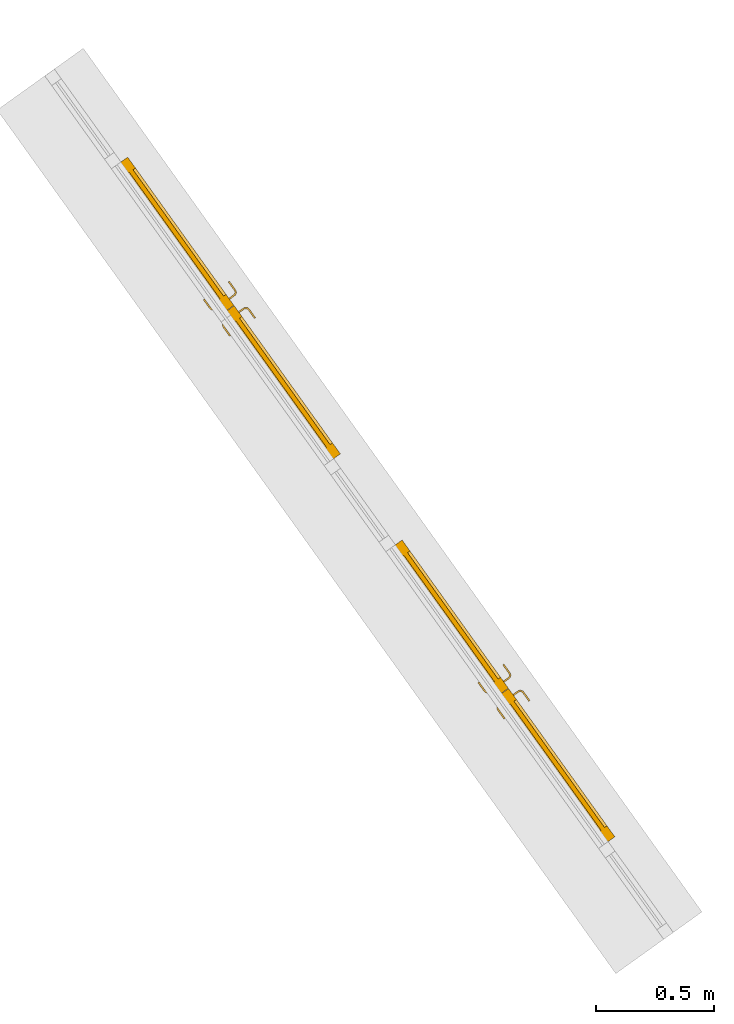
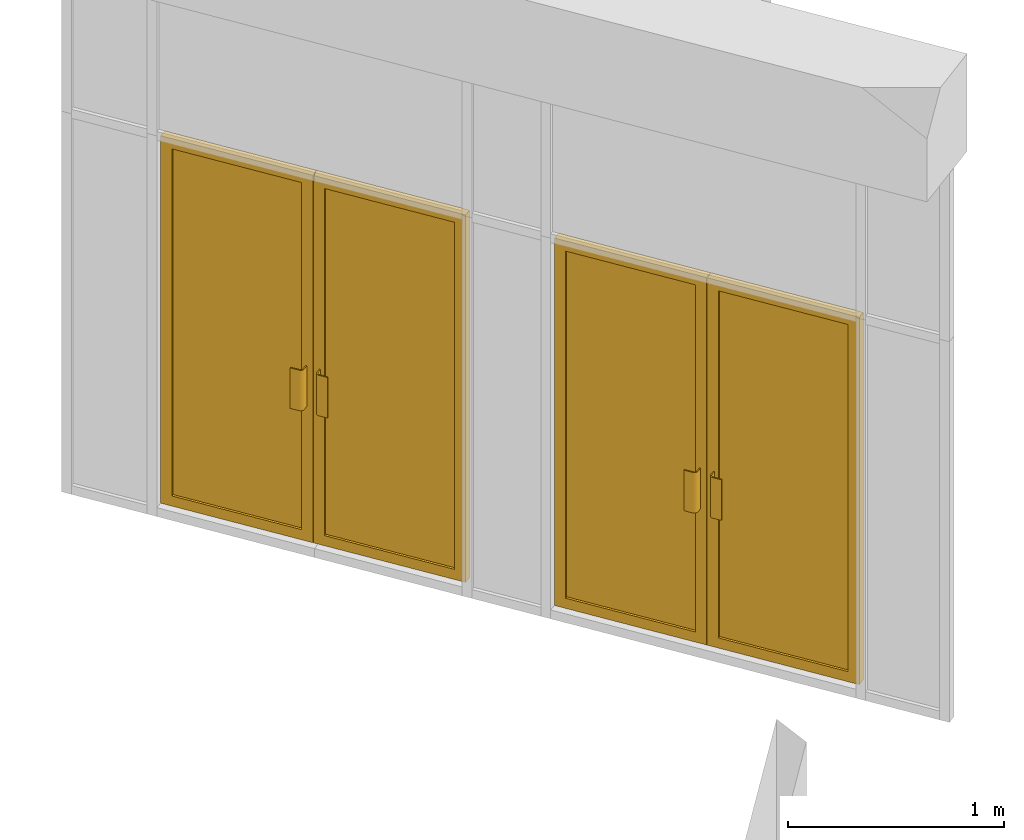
# One storey, part 24 of 24: 2 doors, 1 element without a shape of its own.
"""IFC2X3 building model written with IfcOpenShell, lengths in millimetres."""

from ifc_helpers import new_model, entity, si_unit, converted_unit, derived_unit, direction, frame, frame_2d, origin, place, context, subcontext, project, spatial, polyline, circle_curve, parameter, trimmed, segment, composite_curve, rectangle, outline, extrude, source, transform, mapped, material, material_list, type_object, type_shapes, element, aggregate, save


model = new_model("IFC2X3")

# Units and contexts
model_context = context("Model", 3, precision=0.01, world=origin(), true_north=direction((6.123031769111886e-17, 1.0)))
body_context = subcontext(model_context, "Body", "Model", "MODEL_VIEW")
ifc_project = project(units=[si_unit("LENGTHUNIT", "METRE", prefix="MILLI"), si_unit("AREAUNIT", "SQUARE_METRE"), si_unit("VOLUMEUNIT", "CUBIC_METRE"), converted_unit("PLANEANGLEUNIT", "DEGREE", entity("IfcRatioMeasure", 0.017453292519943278), si_unit("PLANEANGLEUNIT", "RADIAN"), dimensions=[0, 0, 0, 0, 0, 0, 0]), si_unit("MASSUNIT", "GRAM", prefix="KILO"), derived_unit("MASSDENSITYUNIT", [(si_unit("MASSUNIT", "GRAM", prefix="KILO"), 1), (si_unit("LENGTHUNIT", "METRE"), -3)]), derived_unit("MOMENTOFINERTIAUNIT", [(si_unit("LENGTHUNIT", "METRE"), 4)]), si_unit("TIMEUNIT", "SECOND"), si_unit("FREQUENCYUNIT", "HERTZ"), si_unit("THERMODYNAMICTEMPERATUREUNIT", "DEGREE_CELSIUS"), derived_unit("THERMALTRANSMITTANCEUNIT", [(si_unit("MASSUNIT", "GRAM", prefix="KILO"), 1), (si_unit("THERMODYNAMICTEMPERATUREUNIT", "KELVIN"), -1), (si_unit("TIMEUNIT", "SECOND"), -3)]), derived_unit("THERMALCONDUCTANCEUNIT", [(si_unit("MASSUNIT", "GRAM", prefix="KILO"), 1), (si_unit("LENGTHUNIT", "METRE"), 1), (si_unit("THERMODYNAMICTEMPERATUREUNIT", "KELVIN"), -1), (si_unit("TIMEUNIT", "SECOND"), -3)]), derived_unit("VOLUMETRICFLOWRATEUNIT", [(si_unit("LENGTHUNIT", "METRE"), 3), (si_unit("TIMEUNIT", "SECOND"), -1)]), derived_unit("MASSFLOWRATEUNIT", [(si_unit("MASSUNIT", "GRAM", prefix="KILO"), 1), (si_unit("TIMEUNIT", "SECOND"), -1)]), derived_unit("ROTATIONALFREQUENCYUNIT", [(si_unit("TIMEUNIT", "SECOND"), -1)]), si_unit("ELECTRICCURRENTUNIT", "AMPERE"), si_unit("ELECTRICVOLTAGEUNIT", "VOLT"), si_unit("POWERUNIT", "WATT"), converted_unit("FORCEUNIT", "KIP", entity("IfcRatioMeasure", 2.088543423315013e-05), si_unit("FORCEUNIT", "NEWTON"), dimensions=[1, 1, -2, 0, 0, 0, 0]), si_unit("ILLUMINANCEUNIT", "LUX"), si_unit("LUMINOUSFLUXUNIT", "LUMEN"), si_unit("LUMINOUSINTENSITYUNIT", "CANDELA"), derived_unit("USERDEFINED", [(si_unit("MASSUNIT", "GRAM", prefix="KILO"), -1), (si_unit("LENGTHUNIT", "METRE"), -2), (si_unit("TIMEUNIT", "SECOND"), 3), (si_unit("LUMINOUSFLUXUNIT", "LUMEN"), 1)]), derived_unit("USERDEFINED", [(si_unit("MASSUNIT", "GRAM", prefix="KILO"), 1), (si_unit("LENGTHUNIT", "METRE"), 3), (si_unit("TIMEUNIT", "SECOND"), -3), (si_unit("ELECTRICCURRENTUNIT", "AMPERE"), -2)]), derived_unit("USERDEFINED", [(si_unit("LENGTHUNIT", "METRE"), 2), (si_unit("TIMEUNIT", "SECOND"), -2)]), derived_unit("SOUNDPOWERUNIT", [(si_unit("MASSUNIT", "GRAM", prefix="KILO"), 1), (si_unit("LENGTHUNIT", "METRE"), 2), (si_unit("TIMEUNIT", "SECOND"), -3)]), derived_unit("SOUNDPRESSUREUNIT", [(si_unit("MASSUNIT", "GRAM", prefix="KILO"), 1), (si_unit("LENGTHUNIT", "METRE"), -1), (si_unit("TIMEUNIT", "SECOND"), -2)]), derived_unit("LINEARVELOCITYUNIT", [(si_unit("LENGTHUNIT", "METRE"), 1), (si_unit("TIMEUNIT", "SECOND"), -1)]), si_unit("PRESSUREUNIT", "PASCAL"), derived_unit("USERDEFINED", [(si_unit("LENGTHUNIT", "METRE"), -2), (si_unit("MASSUNIT", "GRAM", prefix="KILO"), 1), (si_unit("TIMEUNIT", "SECOND"), -2)]), derived_unit("LINEARFORCEUNIT", [(si_unit("MASSUNIT", "GRAM", prefix="KILO"), 1), (si_unit("LENGTHUNIT", "METRE"), 1), (si_unit("TIMEUNIT", "SECOND"), -2), (si_unit("LENGTHUNIT", "METRE"), -1)]), derived_unit("PLANARFORCEUNIT", [(si_unit("MASSUNIT", "GRAM", prefix="KILO"), 1), (si_unit("LENGTHUNIT", "METRE"), 1), (si_unit("TIMEUNIT", "SECOND"), -2), (si_unit("LENGTHUNIT", "METRE"), -2)]), derived_unit("SPECIFICHEATCAPACITYUNIT", [(si_unit("LENGTHUNIT", "METRE"), 2), (si_unit("TIMEUNIT", "SECOND"), -2), (si_unit("THERMODYNAMICTEMPERATUREUNIT", "KELVIN"), -1)]), derived_unit("VAPORPERMEABILITYUNIT", [(si_unit("TIMEUNIT", "SECOND"), 1), (si_unit("LENGTHUNIT", "METRE"), -1)]), derived_unit("DYNAMICVISCOSITYUNIT", [(si_unit("MASSUNIT", "GRAM", prefix="KILO"), 1), (si_unit("LENGTHUNIT", "METRE"), -1), (si_unit("TIMEUNIT", "SECOND"), -1)]), derived_unit("THERMALEXPANSIONCOEFFICIENTUNIT", [(si_unit("THERMODYNAMICTEMPERATUREUNIT", "KELVIN"), -1)])], contexts=[model_context])

# Site, building, storey
site_placement = place(None, frame((0.0, 0.0, 0.0), z_axis=(0.0, 0.0, 1.0), x_axis=(0.8191520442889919, 0.5735764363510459, 0.0)))
site = spatial("IfcSite", under=ifc_project, at=site_placement, Name="Default", CompositionType="ELEMENT")
building_placement = place(site_placement, origin())
building = spatial("IfcBuilding", under=site, at=building_placement, CompositionType="ELEMENT")
storey_placement = place(building_placement, frame((0.0, 0.0, -1150.0)))
storey = spatial("IfcBuildingStorey", under=building, at=storey_placement, Name="6.EG KH -1.15", CompositionType="ELEMENT", Elevation=-1150.0000000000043)

# Curtain wall, doors
curtain_wall_type = type_object("IfcCurtainWallType", Name="Curtain Wall:Curtain_Wall_CJC_ENTR_KH", PredefinedType="NOTDEFINED")
curtain_wall_placement = place(storey_placement, frame((0.0, 0.0, 1150.0)))
curtain_wall = element("IfcCurtainWall", 1, at=curtain_wall_placement, inside=storey, type_object=curtain_wall_type, Name="Curtain Wall:Curtain_Wall_CJC_ENTR_KH", ObjectType="Curtain Wall:Curtain_Wall_CJC_ENTR_KH")
ifc_material_1 = material(Name="Aluminum")
ifc_material_2 = material(Name="Glass")
ifc_material_list = material_list([ifc_material_1, ifc_material_2])
door_style_1 = type_object("IfcDoorStyle", Name="M_Door-Curtain-Wall-Double-Storefront:M_Door-Curtain-Wall-Double-Storefront", ConstructionType="NOTDEFINED", OperationType="NOTDEFINED", ParameterTakesPrecedence=False, Sizeable=False, material=ifc_material_list)
shared_shape_1 = source(origin(), body_context, "Body", "SweptSolid", [
    extrude(outline(polyline([(-1037.5000000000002, -387.11467502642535), (1037.5000000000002, -387.11467502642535), (1037.5000000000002, 387.1146750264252), (-1037.5000000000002, 387.11467502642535), (-1037.5000000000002, -387.11467502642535)]), holes=[polyline([(-980.3500000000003, 329.9646750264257), (980.3500000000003, 329.9646750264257), (980.3500000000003, -329.9646750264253), (-980.3500000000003, -329.9646750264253), (-980.3500000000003, 329.9646750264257)])]), frame((387.88532497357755, 60.0, 1037.5000000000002), z_axis=(0.0, -1.0, 0.0), x_axis=(0.0, 0.0, -1.0)), (0.0, 0.0, 1.0), 44.45000000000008),
    extrude(outline(polyline([(-387.09157497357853, -1037.5000000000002), (387.09157497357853, -1037.5000000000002), (387.09157497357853, 1037.5000000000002), (-387.09157497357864, 1037.5000000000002), (-387.09157497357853, -1037.5000000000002)]), holes=[polyline([(-329.94157497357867, -980.3500000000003), (-329.9415749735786, 980.3500000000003), (329.94157497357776, 980.3500000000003), (329.9415749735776, -980.3500000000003), (-329.94157497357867, -980.3500000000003)])]), frame((-387.90842502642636, 60.0, 1037.5000000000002), z_axis=(0.0, -1.0, 0.0), x_axis=(-1.0, 0.0, 0.0)), (0.0, 0.0, 1.0), 44.45000000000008),
    extrude(rectangle(XDim=659.9293500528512, YDim=19.049999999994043, at=frame_2d((0.0, -2.6645352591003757e-15), x_axis=(1.0, 0.0))), frame((387.88532497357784, 37.774999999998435, 57.150000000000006)), (0.0, 0.0, 1.0), 1960.7000000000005),
    extrude(rectangle(XDim=659.8831499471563, YDim=19.049999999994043, at=frame_2d((-2.842170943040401e-14, -2.6645352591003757e-15), x_axis=(1.0, 0.0))), frame((-387.90842502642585, 37.774999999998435, 57.150000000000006)), (0.0, 0.0, 1.0), 1960.7000000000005),
    extrude(outline(composite_curve([segment(polyline([(0.8750000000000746, -22.224999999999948), (29.124999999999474, -22.224999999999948)]), True, "CONTINUOUS"), segment(polyline([(29.124999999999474, -22.224999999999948), (29.124999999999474, -15.87499999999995)]), True, "CONTINUOUS"), segment(polyline([(29.124999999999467, -15.87499999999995), (0.8750000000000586, -15.874999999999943)]), True, "CONTINUOUS"), segment(trimmed(circle_curve(frame_2d((0.8750000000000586, -3.175000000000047), x_axis=(0.0, 1.0)), 12.699999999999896), [parameter(90.00000000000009)], [parameter(180.00000000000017)], True, "PARAMETER"), False, "CONTINUOUS"), segment(polyline([(-11.82499999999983, -3.175000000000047), (-11.82499999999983, 41.27499999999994)]), True, "CONTINUOUS"), segment(polyline([(-11.82499999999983, 41.27499999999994), (-18.174999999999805, 41.27499999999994)]), True, "CONTINUOUS"), segment(polyline([(-18.174999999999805, 41.27499999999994), (-18.174999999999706, -3.175000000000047)]), True, "CONTINUOUS"), segment(trimmed(circle_curve(frame_2d((0.8750000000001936, -3.175000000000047), x_axis=(0.0, 1.0)), 19.049999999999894), [parameter(90.00000000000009)], [parameter(179.99999999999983)], True, "PARAMETER"), True, "CONTINUOUS")], self_intersect=False)), frame((-53.99810005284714, -13.57499999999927, 762.0), z_axis=(0.0, 0.0, 1.0), x_axis=(0.0, 1.0, 0.0)), (0.0, 0.0, 1.0), 228.5999999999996),
    extrude(outline(composite_curve([segment(trimmed(circle_curve(frame_2d((3.1750000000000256, -0.8749999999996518), x_axis=(1.0, 0.0)), 19.04999999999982), [parameter(3.5622212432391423e-13)], [parameter(90.00000000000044)], True, "PARAMETER"), True, "CONTINUOUS"), segment(polyline([(3.1750000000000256, 18.17500000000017), (-41.27499999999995, 18.175000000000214)]), True, "CONTINUOUS"), segment(polyline([(-41.27499999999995, 18.175000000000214), (-41.27499999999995, 11.82500000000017)]), True, "CONTINUOUS"), segment(polyline([(-41.27499999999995, 11.82500000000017), (3.175000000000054, 11.82500000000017)]), True, "CONTINUOUS"), segment(trimmed(circle_curve(frame_2d((3.175000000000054, -0.8749999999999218), x_axis=(1.0, 0.0)), 12.700000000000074), [parameter(359.99999999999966)], [parameter(89.99999999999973)], True, "PARAMETER"), False, "CONTINUOUS"), segment(polyline([(15.875000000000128, -0.8749999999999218), (15.87499999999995, -29.125000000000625)]), True, "CONTINUOUS"), segment(polyline([(15.87499999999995, -29.125000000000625), (22.2249999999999, -29.125000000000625)]), True, "CONTINUOUS"), segment(polyline([(22.2249999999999, -29.125000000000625), (22.2249999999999, -0.8749999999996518)]), True, "CONTINUOUS")], self_intersect=False)), frame((53.95189994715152, -13.575000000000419, 762.0), z_axis=(0.0, 0.0, 1.0), x_axis=(-1.0, 0.0, 0.0)), (0.0, 0.0, 1.0), 228.5999999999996),
    extrude(outline(composite_curve([segment(trimmed(circle_curve(frame_2d((-3.174999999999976, 1.5874999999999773), x_axis=(1.0, 0.0)), 19.049999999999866), [parameter(180.00000000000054)], [parameter(270.00000000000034)], True, "PARAMETER"), True, "CONTINUOUS"), segment(polyline([(-3.174999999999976, -17.462499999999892), (41.275, -17.462500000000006)]), True, "CONTINUOUS"), segment(polyline([(41.275, -17.462500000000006), (41.275, -11.112500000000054)]), True, "CONTINUOUS"), segment(polyline([(41.275, -11.112500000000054), (-3.174999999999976, -11.112500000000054)]), True, "CONTINUOUS"), segment(trimmed(circle_curve(frame_2d((-3.174999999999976, 1.5874999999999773), x_axis=(1.0, 0.0)), 12.700000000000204), [parameter(179.9999999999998)], [parameter(269.99999999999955)], True, "PARAMETER"), False, "CONTINUOUS"), segment(polyline([(-15.875000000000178, 1.5874999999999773), (-15.875000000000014, 26.987500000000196)]), True, "CONTINUOUS"), segment(polyline([(-15.875000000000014, 26.987500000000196), (-22.224999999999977, 26.987500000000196)]), True, "CONTINUOUS"), segment(polyline([(-22.224999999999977, 26.987500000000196), (-22.224999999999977, 1.5874999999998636)]), True, "CONTINUOUS")], self_intersect=False)), frame((-53.998100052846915, 86.98750000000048, 762.0), z_axis=(0.0, 0.0, 1.0), x_axis=(-1.0, 0.0, 0.0)), (0.0, 0.0, 1.0), 228.60000000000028),
    extrude(outline(composite_curve([segment(polyline([(1.5875000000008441, -22.225000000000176), (26.987499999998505, -22.225000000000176)]), True, "CONTINUOUS"), segment(polyline([(26.987499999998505, -22.225000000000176), (26.987499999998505, -15.875000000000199)]), True, "CONTINUOUS"), segment(polyline([(26.987499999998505, -15.875000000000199), (1.5875000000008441, -15.874999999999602)]), True, "CONTINUOUS"), segment(trimmed(circle_curve(frame_2d((1.5875000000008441, -3.1749999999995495), x_axis=(0.0, -1.0)), 12.700000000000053), [parameter(269.9999999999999)], [parameter(0.0)], True, "PARAMETER"), False, "CONTINUOUS"), segment(polyline([(-11.112499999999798, -3.1749999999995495), (-11.112499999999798, 41.27499999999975)]), True, "CONTINUOUS"), segment(polyline([(-11.112499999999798, 41.27499999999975), (-17.462499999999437, 41.27499999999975)]), True, "CONTINUOUS"), segment(polyline([(-17.462499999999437, 41.27499999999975), (-17.462499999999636, -3.1749999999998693)]), True, "CONTINUOUS"), segment(trimmed(circle_curve(frame_2d((1.5875000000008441, -3.1749999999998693), x_axis=(0.0, -1.0)), 19.050000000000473), [parameter(269.9999999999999)], [parameter(0.0)], True, "PARAMETER"), True, "CONTINUOUS")], self_intersect=False)), frame((53.95189994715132, 86.98749999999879, 762.0), z_axis=(0.0, 0.0, 1.0), x_axis=(0.0, -1.0, 0.0)), (0.0, 0.0, 1.0), 228.60000000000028),
])
type_shapes(door_style_1, [shared_shape_1])
door_1_placement = place(curtain_wall_placement, frame((-189113.15153237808, 189643.40053991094, -1100.0), z_axis=(0.0, 0.0, 1.0), x_axis=(0.011082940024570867, -0.999938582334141, 0.0)))
door_1 = element("IfcDoor", 2, at=door_1_placement, type_object=door_style_1, material=ifc_material_list, Name="M_Door-Curtain-Wall-Double-Storefront:M_Door-Curtain-Wall-Double-Storefront", ObjectType="M_Door-Curtain-Wall-Double-Storefront:M_Door-Curtain-Wall-Double-Storefront", OverallHeight=2075.000000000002, OverallWidth=1550.0000000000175, context=body_context, shape_type="MappedRepresentation", body=[
    mapped(shared_shape_1, transform((0.0, 0.0, 0.0), scale=1.0)),
])
door_style_2 = type_object("IfcDoorStyle", Name="M_Door-Curtain-Wall-Double-Storefront:M_Door-Curtain-Wall-Double-Storefront", ConstructionType="NOTDEFINED", OperationType="NOTDEFINED", ParameterTakesPrecedence=False, Sizeable=False, material=ifc_material_list)
shared_shape_2 = source(origin(), body_context, "Body", "SweptSolid", [
    extrude(outline(polyline([(-1037.5000000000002, -387.114675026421), (1037.5000000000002, -387.114675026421), (1037.5000000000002, 387.11467502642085), (-1037.5000000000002, 387.114675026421), (-1037.5000000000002, -387.114675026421)]), holes=[polyline([(-980.3500000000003, 329.9646750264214), (980.3500000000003, 329.9646750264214), (980.3500000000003, -329.964675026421), (-980.3500000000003, -329.964675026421), (-980.3500000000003, 329.9646750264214)])]), frame((387.88532497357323, 60.0, 1037.5000000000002), z_axis=(0.0, -1.0, 0.0), x_axis=(0.0, 0.0, -1.0)), (0.0, 0.0, 1.0), 44.45000000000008),
    extrude(outline(polyline([(-387.0915749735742, -1037.5000000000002), (387.0915749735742, -1037.5000000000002), (387.0915749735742, 1037.5000000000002), (-387.09157497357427, 1037.5000000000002), (-387.0915749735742, -1037.5000000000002)]), holes=[polyline([(-329.94157497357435, -980.3500000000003), (-329.9415749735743, 980.3500000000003), (329.9415749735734, 980.3500000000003), (329.94157497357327, -980.3500000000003), (-329.94157497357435, -980.3500000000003)])]), frame((-387.90842502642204, 60.0, 1037.5000000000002), z_axis=(0.0, -1.0, 0.0), x_axis=(-1.0, 0.0, 0.0)), (0.0, 0.0, 1.0), 44.45000000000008),
    extrude(rectangle(XDim=659.9293500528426, YDim=19.049999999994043, at=frame_2d((0.0, -2.6645352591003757e-15), x_axis=(1.0, 0.0))), frame((387.8853249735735, 37.774999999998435, 57.150000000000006)), (0.0, 0.0, 1.0), 1960.7000000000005),
    extrude(rectangle(XDim=659.8831499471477, YDim=19.049999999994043, at=frame_2d((-5.684341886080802e-14, -2.6645352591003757e-15), x_axis=(1.0, 0.0))), frame((-387.9084250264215, 37.774999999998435, 57.150000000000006)), (0.0, 0.0, 1.0), 1960.7000000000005),
    extrude(outline(composite_curve([segment(polyline([(0.8750000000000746, -22.224999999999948), (29.124999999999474, -22.224999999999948)]), True, "CONTINUOUS"), segment(polyline([(29.124999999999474, -22.224999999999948), (29.124999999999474, -15.87499999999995)]), True, "CONTINUOUS"), segment(polyline([(29.124999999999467, -15.87499999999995), (0.8750000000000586, -15.874999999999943)]), True, "CONTINUOUS"), segment(trimmed(circle_curve(frame_2d((0.8750000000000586, -3.175000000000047), x_axis=(0.0, 1.0)), 12.699999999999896), [parameter(90.00000000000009)], [parameter(180.00000000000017)], True, "PARAMETER"), False, "CONTINUOUS"), segment(polyline([(-11.82499999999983, -3.175000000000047), (-11.82499999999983, 41.27499999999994)]), True, "CONTINUOUS"), segment(polyline([(-11.82499999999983, 41.27499999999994), (-18.174999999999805, 41.27499999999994)]), True, "CONTINUOUS"), segment(polyline([(-18.174999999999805, 41.27499999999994), (-18.174999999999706, -3.175000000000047)]), True, "CONTINUOUS"), segment(trimmed(circle_curve(frame_2d((0.8750000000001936, -3.175000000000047), x_axis=(0.0, 1.0)), 19.049999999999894), [parameter(90.00000000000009)], [parameter(179.99999999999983)], True, "PARAMETER"), True, "CONTINUOUS")], self_intersect=False)), frame((-53.99810005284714, -13.57499999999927, 762.0), z_axis=(0.0, 0.0, 1.0), x_axis=(0.0, 1.0, 0.0)), (0.0, 0.0, 1.0), 228.5999999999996),
    extrude(outline(composite_curve([segment(trimmed(circle_curve(frame_2d((3.1750000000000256, -0.8749999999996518), x_axis=(1.0, 0.0)), 19.04999999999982), [parameter(3.5622212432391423e-13)], [parameter(90.00000000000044)], True, "PARAMETER"), True, "CONTINUOUS"), segment(polyline([(3.1750000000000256, 18.17500000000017), (-41.27499999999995, 18.175000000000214)]), True, "CONTINUOUS"), segment(polyline([(-41.27499999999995, 18.175000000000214), (-41.27499999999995, 11.82500000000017)]), True, "CONTINUOUS"), segment(polyline([(-41.27499999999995, 11.82500000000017), (3.175000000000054, 11.82500000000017)]), True, "CONTINUOUS"), segment(trimmed(circle_curve(frame_2d((3.175000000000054, -0.8749999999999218), x_axis=(1.0, 0.0)), 12.700000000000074), [parameter(359.99999999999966)], [parameter(89.99999999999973)], True, "PARAMETER"), False, "CONTINUOUS"), segment(polyline([(15.875000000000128, -0.8749999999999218), (15.87499999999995, -29.125000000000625)]), True, "CONTINUOUS"), segment(polyline([(15.87499999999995, -29.125000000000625), (22.2249999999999, -29.125000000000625)]), True, "CONTINUOUS"), segment(polyline([(22.2249999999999, -29.125000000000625), (22.2249999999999, -0.8749999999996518)]), True, "CONTINUOUS")], self_intersect=False)), frame((53.95189994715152, -13.575000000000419, 762.0), z_axis=(0.0, 0.0, 1.0), x_axis=(-1.0, 0.0, 0.0)), (0.0, 0.0, 1.0), 228.5999999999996),
    extrude(outline(composite_curve([segment(trimmed(circle_curve(frame_2d((-3.174999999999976, 1.5874999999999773), x_axis=(1.0, 0.0)), 19.049999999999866), [parameter(180.00000000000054)], [parameter(270.00000000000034)], True, "PARAMETER"), True, "CONTINUOUS"), segment(polyline([(-3.174999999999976, -17.462499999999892), (41.275, -17.462500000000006)]), True, "CONTINUOUS"), segment(polyline([(41.275, -17.462500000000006), (41.275, -11.112500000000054)]), True, "CONTINUOUS"), segment(polyline([(41.275, -11.112500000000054), (-3.174999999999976, -11.112500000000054)]), True, "CONTINUOUS"), segment(trimmed(circle_curve(frame_2d((-3.174999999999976, 1.5874999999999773), x_axis=(1.0, 0.0)), 12.700000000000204), [parameter(179.9999999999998)], [parameter(269.99999999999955)], True, "PARAMETER"), False, "CONTINUOUS"), segment(polyline([(-15.875000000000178, 1.5874999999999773), (-15.875000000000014, 26.987500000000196)]), True, "CONTINUOUS"), segment(polyline([(-15.875000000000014, 26.987500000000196), (-22.224999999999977, 26.987500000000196)]), True, "CONTINUOUS"), segment(polyline([(-22.224999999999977, 26.987500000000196), (-22.224999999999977, 1.5874999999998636)]), True, "CONTINUOUS")], self_intersect=False)), frame((-53.998100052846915, 86.98750000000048, 762.0), z_axis=(0.0, 0.0, 1.0), x_axis=(-1.0, 0.0, 0.0)), (0.0, 0.0, 1.0), 228.60000000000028),
    extrude(outline(composite_curve([segment(polyline([(1.5875000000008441, -22.225000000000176), (26.987499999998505, -22.225000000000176)]), True, "CONTINUOUS"), segment(polyline([(26.987499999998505, -22.225000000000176), (26.987499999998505, -15.875000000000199)]), True, "CONTINUOUS"), segment(polyline([(26.987499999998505, -15.875000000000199), (1.5875000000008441, -15.874999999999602)]), True, "CONTINUOUS"), segment(trimmed(circle_curve(frame_2d((1.5875000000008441, -3.1749999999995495), x_axis=(0.0, -1.0)), 12.700000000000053), [parameter(269.9999999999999)], [parameter(0.0)], True, "PARAMETER"), False, "CONTINUOUS"), segment(polyline([(-11.112499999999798, -3.1749999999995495), (-11.112499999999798, 41.27499999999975)]), True, "CONTINUOUS"), segment(polyline([(-11.112499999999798, 41.27499999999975), (-17.462499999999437, 41.27499999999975)]), True, "CONTINUOUS"), segment(polyline([(-17.462499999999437, 41.27499999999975), (-17.462499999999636, -3.1749999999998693)]), True, "CONTINUOUS"), segment(trimmed(circle_curve(frame_2d((1.5875000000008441, -3.1749999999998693), x_axis=(0.0, -1.0)), 19.050000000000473), [parameter(269.9999999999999)], [parameter(0.0)], True, "PARAMETER"), True, "CONTINUOUS")], self_intersect=False)), frame((53.95189994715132, 86.98749999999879, 762.0), z_axis=(0.0, 0.0, 1.0), x_axis=(0.0, -1.0, 0.0)), (0.0, 0.0, 1.0), 228.60000000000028),
])
type_shapes(door_style_2, [shared_shape_2])
door_2_placement = place(curtain_wall_placement, frame((-189135.3174124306, 191643.27770488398, -1100.0), z_axis=(0.0, 0.0, 1.0), x_axis=(0.011082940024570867, -0.999938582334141, 0.0)))
door_2 = element("IfcDoor", 3, at=door_2_placement, type_object=door_style_2, material=ifc_material_list, Name="M_Door-Curtain-Wall-Double-Storefront:M_Door-Curtain-Wall-Double-Storefront", ObjectType="M_Door-Curtain-Wall-Double-Storefront:M_Door-Curtain-Wall-Double-Storefront", OverallHeight=2075.000000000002, OverallWidth=1549.9999999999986, context=body_context, shape_type="MappedRepresentation", body=[
    mapped(shared_shape_2, transform((0.0, 0.0, 0.0), scale=1.0)),
])
aggregate(curtain_wall, [door_1, door_2])

save(model, "model.ifc")
